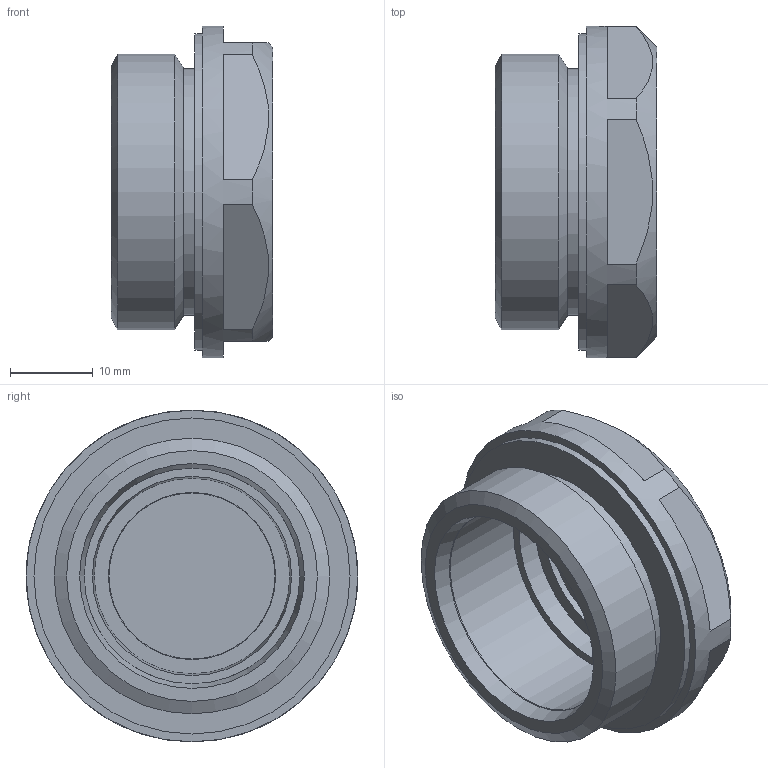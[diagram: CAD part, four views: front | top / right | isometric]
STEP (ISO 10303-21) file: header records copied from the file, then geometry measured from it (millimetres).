
FILE_DESCRIPTION( ( 'STEP AP203' ), '1' );
FILE_NAME( 'C:/Temp/Ganter_Step_05_03_2020/data/3_5/gn7404/gn7404_ni/Stainless Steel-Two-way breathable membrane GN 7404-NI-G1-1,2.stp', '2020-03-12T13:44:10', ( 'License CC BY-ND 4.0' ), ( 'CADENAS' ), ' ', 'PARTsolutions', ' ' );
FILE_SCHEMA( ( 'CONFIG_CONTROL_DESIGN' ) );
Length unit declared in the file: millimetre
Products named in the file (1): _Stainless Steel-Two-way breathable membrane GN 7404-NI-G1-1,2
Bounding box: 19.5 x 40 x 40 mm (x, y, z)
Volume: 9556 mm3; surface area: 7284.3 mm2
Topology: 1 solids, 1 shells, 112 faces, 411 edges, 277 vertices
Faces by surface type: cylinder 74, plane 23, cone 9, torus 4, sphere 2
Full cylindrical faces by diameter (mm): 1.6 x43, 24 x1, 25.7 x1, 26 x1, 29.8 x1, 33.249 x1, 38.1 x1, 40 x1
Entity records: 6278 total; most frequent: CARTESIAN_POINT 3433, ORIENTED_EDGE 578, DIRECTION 432, EDGE_CURVE 289, EDGE_LOOP 263, VERTEX_POINT 222, AXIS2_PLACEMENT_3D 195, FACE_OUTER_BOUND 168
